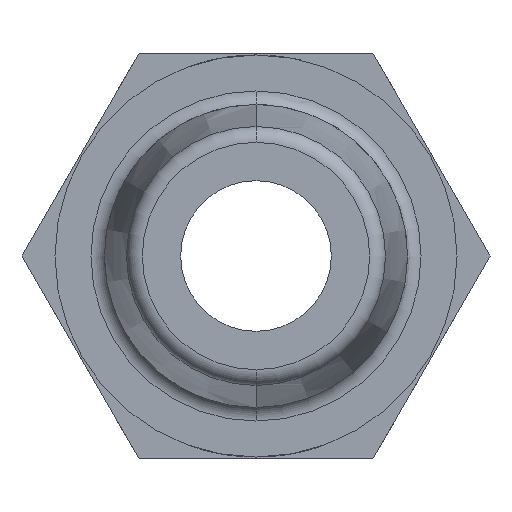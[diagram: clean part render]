
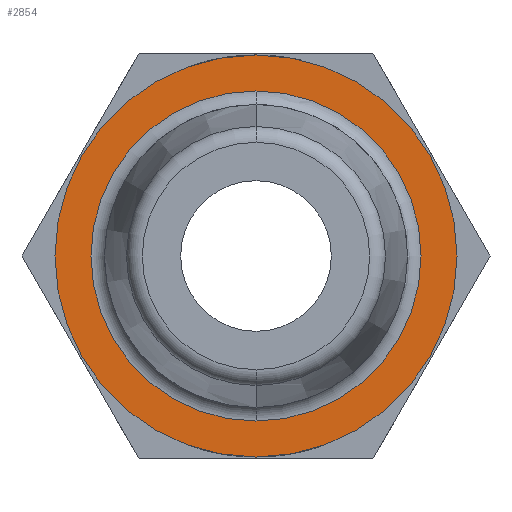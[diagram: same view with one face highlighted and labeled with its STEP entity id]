
A CAD part, left-side view. The second image highlights one B-rep face of the part: STEP entity #2854.
In plain terms, the highlighted planar face has unit normal (-1, 0, 0).
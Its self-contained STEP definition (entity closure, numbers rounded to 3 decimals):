
#54=FACE_BOUND('',#342,.T.);
#69=PLANE('',#3094);
#191=FACE_OUTER_BOUND('',#341,.T.);
#341=EDGE_LOOP('',(#2008,#2009));
#342=EDGE_LOOP('',(#2010,#2011));
#486=CIRCLE('',#3028,3.15);
#509=CIRCLE('',#3055,2.587);
#535=CIRCLE('',#3095,3.15);
#536=CIRCLE('',#3096,2.587);
#1156=VERTEX_POINT('',#4770);
#1157=VERTEX_POINT('',#4772);
#1215=VERTEX_POINT('',#5105);
#1216=VERTEX_POINT('',#5106);
#1448=EDGE_CURVE('',#1157,#1156,#486,.T.);
#1508=EDGE_CURVE('',#1215,#1216,#509,.T.);
#1553=EDGE_CURVE('',#1156,#1157,#535,.T.);
#1554=EDGE_CURVE('',#1216,#1215,#536,.T.);
#2008=ORIENTED_EDGE('',*,*,#1448,.T.);
#2009=ORIENTED_EDGE('',*,*,#1553,.T.);
#2010=ORIENTED_EDGE('',*,*,#1554,.T.);
#2011=ORIENTED_EDGE('',*,*,#1508,.T.);
#2854=ADVANCED_FACE('',(#191,#54),#69,.F.);
#3028=AXIS2_PLACEMENT_3D('',#4773,#3326,#3327);
#3055=AXIS2_PLACEMENT_3D('',#5107,#3403,#3404);
#3094=AXIS2_PLACEMENT_3D('',#5198,#3499,#3500);
#3095=AXIS2_PLACEMENT_3D('',#5199,#3501,#3502);
#3096=AXIS2_PLACEMENT_3D('',#5200,#3503,#3504);
#3326=DIRECTION('center_axis',(-1.,0.,0.));
#3327=DIRECTION('ref_axis',(0.,0.,1.));
#3403=DIRECTION('center_axis',(1.,0.,0.));
#3404=DIRECTION('ref_axis',(0.,0.,
1.));
#3499=DIRECTION('center_axis',(1.,0.,0.));
#3500=DIRECTION('ref_axis',(0.,0.,-1.));
#3501=DIRECTION('center_axis',(-1.,0.,0.));
#3502=DIRECTION('ref_axis',(0.,0.,
-1.));
#3503=DIRECTION('center_axis',(1.,0.,0.));
#3504=DIRECTION('ref_axis',(0.,0.,-1.));
#4770=CARTESIAN_POINT('',(-13.,0.,-3.15));
#4772=CARTESIAN_POINT('',(-13.,0.,3.15));
#4773=CARTESIAN_POINT('Origin',(-13.,0.,0.));
#5105=CARTESIAN_POINT('',(-13.,0.,2.587));
#5106=CARTESIAN_POINT('',(-13.,0.,-2.587));
#5107=CARTESIAN_POINT('Origin',(-13.,0.,0.));
#5198=CARTESIAN_POINT('Origin',(-13.,-3.188,0.));
#5199=CARTESIAN_POINT('Origin',(-13.,0.,0.));
#5200=CARTESIAN_POINT('Origin',(-13.,0.,0.));
